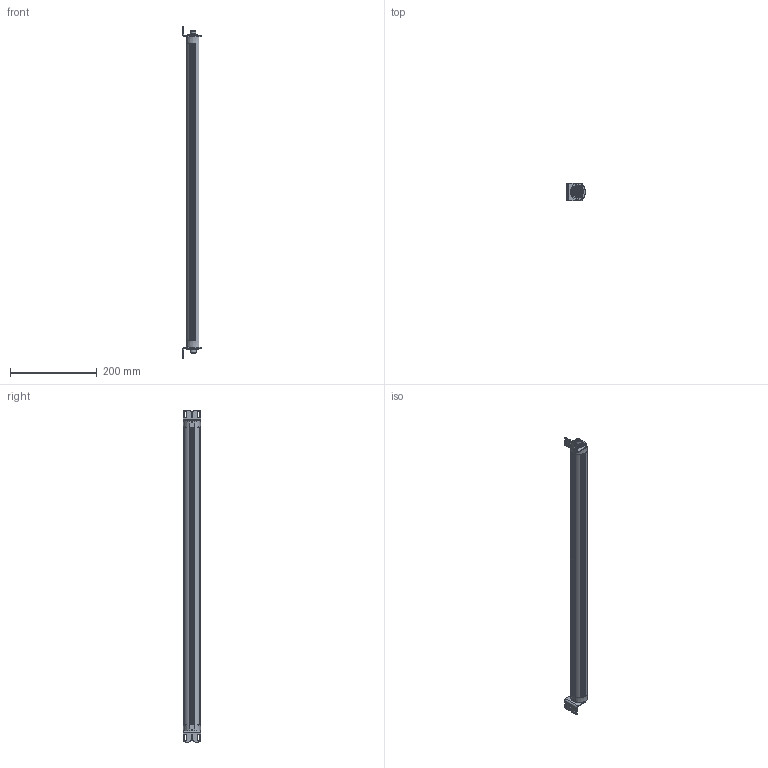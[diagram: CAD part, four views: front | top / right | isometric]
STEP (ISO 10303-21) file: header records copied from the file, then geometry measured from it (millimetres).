
FILE_DESCRIPTION(/* description */ (''),/* implementation_level */ '2;1');
FILE_NAME(/* name */ 'G:\Daten\Leuchten\07000 - LED LR40\03 - CAD\LR_40 LRO_40 715\led-aufbauleuchte-lr40-190-D.stp',/* time_stamp */ '2023-05-05T12:03:39+02:00',/* author */ ('gzahn'),/* organization */ (''),/* preprocessor_version */ 'ST-DEVELOPER v19',/* originating_system */ 'Autodesk Inventor 2023',/* authorisation */ '');
FILE_SCHEMA (('AUTOMOTIVE_DESIGN { 1 0 10303 214 3 1 1 }'));
Length unit declared in the file: millimetre
Products named in the file (1): led-aufbauleuchte-lr40-190-D
Bounding box: 42 x 40.01 x 765 mm (x, y, z)
Volume: 657886.5 mm3; surface area: 115585.6 mm2
Topology: 1 solids, 1 shells, 1078 faces, 2972 edges, 1842 vertices
Faces by surface type: plane 455, cylinder 380, cone 109, bspline 95, torus 32, sphere 7
Full cylindrical faces by diameter (mm): 1 x5, 1.1 x5, 1.5 x5, 1.6 x8, 2.2 x1, 2.9 x8, 2.92 x12, 5.5 x8, 5.8 x8, 8 x6, 8.3 x1, 10.5 x1, 10.65 x1, 10.8 x1, 10.92 x1, 12 x1, 12.3 x1, 14 x1, 20 x2
Entity records: 38556 total; most frequent: CARTESIAN_POINT 10386, ORIENTED_EDGE 5842, DIRECTION 5659, EDGE_CURVE 2921, AXIS2_PLACEMENT_3D 2266, VERTEX_POINT 1835, CIRCLE 1264, EDGE_LOOP 1177
